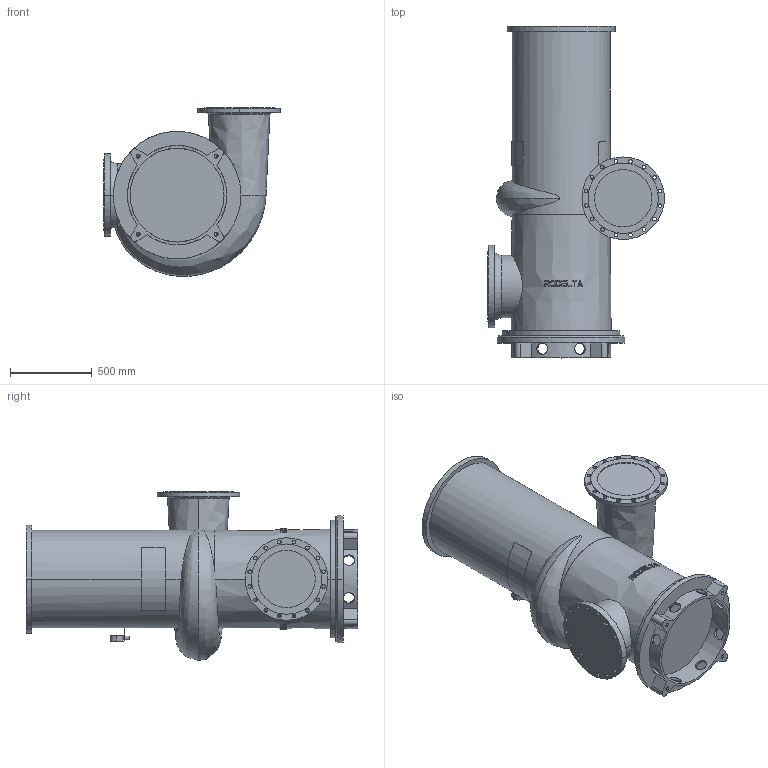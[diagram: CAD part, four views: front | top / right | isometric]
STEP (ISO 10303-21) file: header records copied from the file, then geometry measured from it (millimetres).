
FILE_DESCRIPTION((''),'2;1');
FILE_NAME('14-408_BLAD_ASM','2024-08-07T',('Lyritlocal'),(''),'PRO/ENGINEER BY PARAMETRIC TECHNOLOGY CORPORATION, 2016360','PRO/ENGINEER BY PARAMETRIC TECHNOLOGY CORPORATION, 2016360','');
FILE_SCHEMA(('CONFIG_CONTROL_DESIGN'));
Length unit declared in the file: millimetre
Products named in the file (3): 14-408; 14-408_VOET; 14-408_BLAD_ASM
Assembly tree (2 placements, depth 2):
  14-408_BLAD_ASM
    14-408
    14-408_VOET
Bounding box: 1082.5 x 2030 x 1032.34 mm (x, y, z)
Volume: 689139970.2 mm3; surface area: 7600964.2 mm2
Topology: 2 solids, 6 shells, 519 faces, 1412 edges, 930 vertices
Faces by surface type: plane 323, cylinder 154, cone 36, bspline 6
Entity records: 18592 total; most frequent: CARTESIAN_POINT 5752, ORIENTED_EDGE 2792, DIRECTION 2423, EDGE_CURVE 1404, AXIS2_PLACEMENT_3D 943, VERTEX_POINT 930, EDGE_LOOP 640, VECTOR 537
